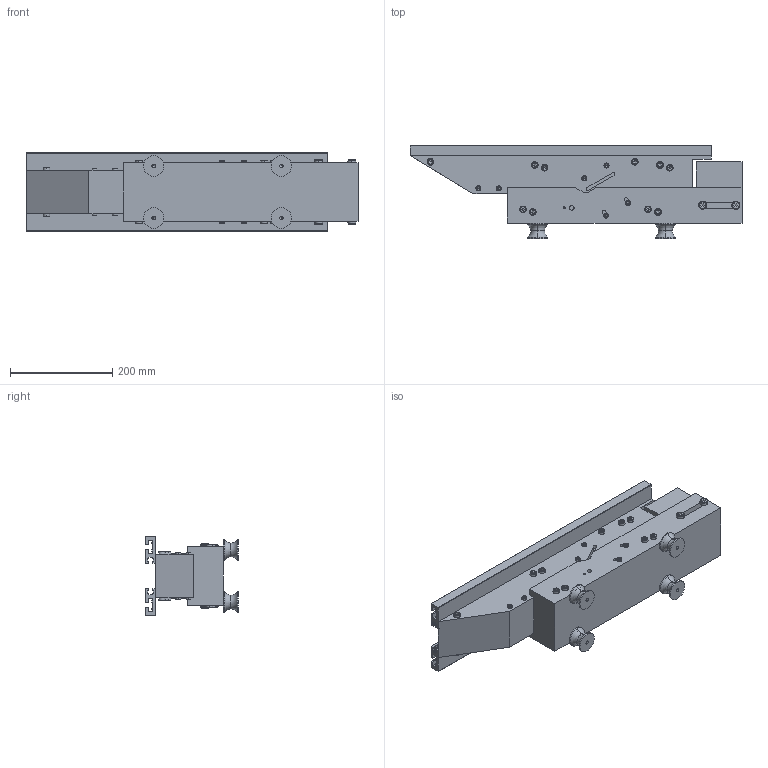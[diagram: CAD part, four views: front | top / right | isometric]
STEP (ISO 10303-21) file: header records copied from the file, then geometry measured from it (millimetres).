
FILE_DESCRIPTION (( 'STEP AP203' ), '1' );
FILE_NAME ('ZL600 眻盄 毀蚾 芞祧001.STEP', '2024-05-07T05:55:59', ( '' ), ( '' ), 'SwSTEP 2.0', 'SolidWorks 2022', '' );
FILE_SCHEMA (( 'CONFIG_CONTROL_DESIGN' ));
Length unit declared in the file: millimetre
Products named in the file (1): ZL600 眻盄  毀蚾  芞祧001
Bounding box: 650 x 182 x 154 mm (x, y, z)
Volume: 7736943.6 mm3; surface area: 668792 mm2
Topology: 11 solids, 43 shells, 1104 faces, 2374 edges, 1436 vertices
Faces by surface type: plane 686, cylinder 226, cone 104, bspline 72, torus 16
Entity records: 30373 total; most frequent: CARTESIAN_POINT 6291, DIRECTION 5120, ORIENTED_EDGE 4732, EDGE_CURVE 2366, AXIS2_PLACEMENT_3D 1799, LINE 1522, VECTOR 1522, VERTEX_POINT 1436
